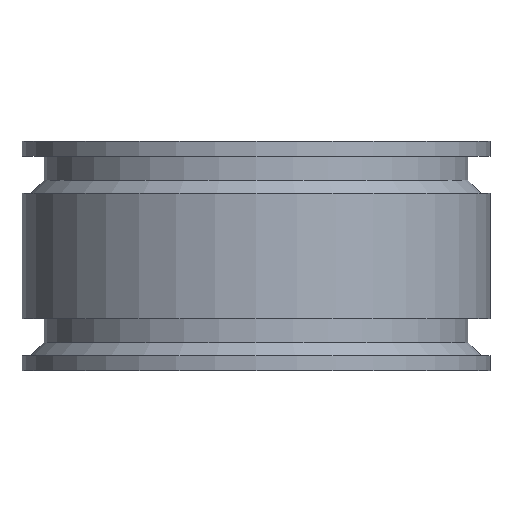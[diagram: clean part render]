
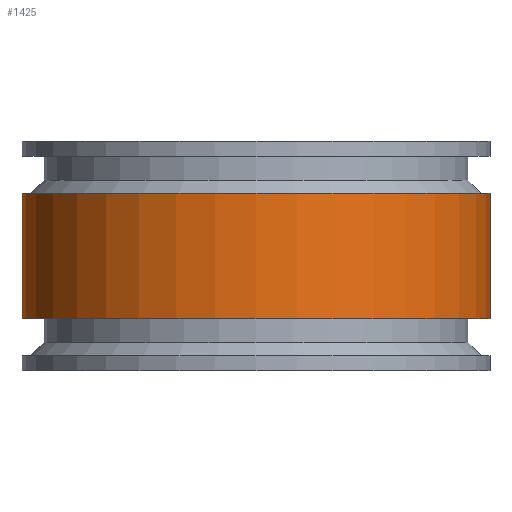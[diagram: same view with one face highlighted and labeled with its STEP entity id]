
A CAD part, front view. The second image highlights one B-rep face of the part: STEP entity #1425.
In plain terms, the highlighted cylindrical face has radius 26.5 mm (diameter 53 mm), a partial arc.
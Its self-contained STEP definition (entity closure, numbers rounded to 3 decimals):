
#70 = ORIENTED_EDGE ( 'NONE', *, *, #3150, .F. ) ;
#205 = CARTESIAN_POINT ( 'NONE',  ( 26.5, 0., 20.1 ) ) ;
#271 = DIRECTION ( 'NONE',  ( -1., 0., 0. ) ) ;
#306 = CARTESIAN_POINT ( 'NONE',  ( -26.5, 0., 5.9 ) ) ;
#429 = VECTOR ( 'NONE', #1406, 1000. ) ;
#564 = CARTESIAN_POINT ( 'NONE',  ( 0., 0., 5.9 ) ) ;
#644 = AXIS2_PLACEMENT_3D ( 'NONE', #1103, #1143, #856 ) ;
#685 = CIRCLE ( 'NONE', #3405, 26.5 ) ;
#856 = DIRECTION ( 'NONE',  ( -1., 0., 0. ) ) ;
#1103 = CARTESIAN_POINT ( 'NONE',  ( 0., 0., 26. ) ) ;
#1121 = FACE_OUTER_BOUND ( 'NONE', #1679, .T. ) ;
#1143 = DIRECTION ( 'NONE',  ( 0., 0., -1. ) ) ;
#1167 = LINE ( 'NONE', #2536, #429 ) ;
#1274 = EDGE_CURVE ( 'NONE', #3191, #2235, #685, .T. ) ;
#1406 = DIRECTION ( 'NONE',  ( 0., 0., -1. ) ) ;
#1414 = EDGE_CURVE ( 'NONE', #1566, #3496, #2454, .T. ) ;
#1425 = ADVANCED_FACE ( 'NONE', ( #1121 ), #2363, .T. ) ;
#1466 = EDGE_CURVE ( 'NONE', #3191, #3496, #1167, .T. ) ;
#1566 = VERTEX_POINT ( 'NONE', #1665 ) ;
#1609 = AXIS2_PLACEMENT_3D ( 'NONE', #564, #3110, #271 ) ;
#1620 = DIRECTION ( 'NONE',  ( 1., 0., 0. ) ) ;
#1665 = CARTESIAN_POINT ( 'NONE',  ( 26.5, 0., 5.9 ) ) ;
#1679 = EDGE_LOOP ( 'NONE', ( #70, #2884, #2688, #2588 ) ) ;
#1740 = CARTESIAN_POINT ( 'NONE',  ( 26.5, 0., 26. ) ) ;
#2235 = VERTEX_POINT ( 'NONE', #205 ) ;
#2306 = DIRECTION ( 'NONE',  ( 0., 0., -1. ) ) ;
#2352 = VECTOR ( 'NONE', #2306, 1000. ) ;
#2363 = CYLINDRICAL_SURFACE ( 'NONE', #644, 26.5 ) ;
#2454 = CIRCLE ( 'NONE', #1609, 26.5 ) ;
#2536 = CARTESIAN_POINT ( 'NONE',  ( -26.5, 0., 26. ) ) ;
#2588 = ORIENTED_EDGE ( 'NONE', *, *, #1414, .F. ) ;
#2688 = ORIENTED_EDGE ( 'NONE', *, *, #1466, .T. ) ;
#2819 = CARTESIAN_POINT ( 'NONE',  ( -26.5, 0., 20.1 ) ) ;
#2884 = ORIENTED_EDGE ( 'NONE', *, *, #1274, .F. ) ;
#2992 = LINE ( 'NONE', #1740, #2352 ) ;
#3087 = CARTESIAN_POINT ( 'NONE',  ( 0., 0., 20.1 ) ) ;
#3110 = DIRECTION ( 'NONE',  ( 0., 0., -1. ) ) ;
#3150 = EDGE_CURVE ( 'NONE', #2235, #1566, #2992, .T. ) ;
#3191 = VERTEX_POINT ( 'NONE', #2819 ) ;
#3322 = DIRECTION ( 'NONE',  ( 0., 0., 1. ) ) ;
#3405 = AXIS2_PLACEMENT_3D ( 'NONE', #3087, #3322, #1620 ) ;
#3496 = VERTEX_POINT ( 'NONE', #306 ) ;
